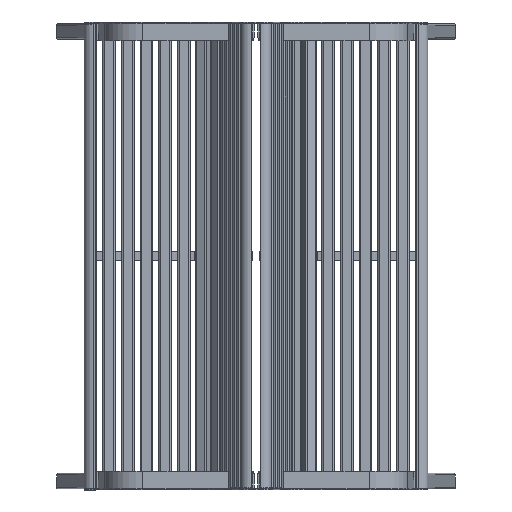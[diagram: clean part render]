
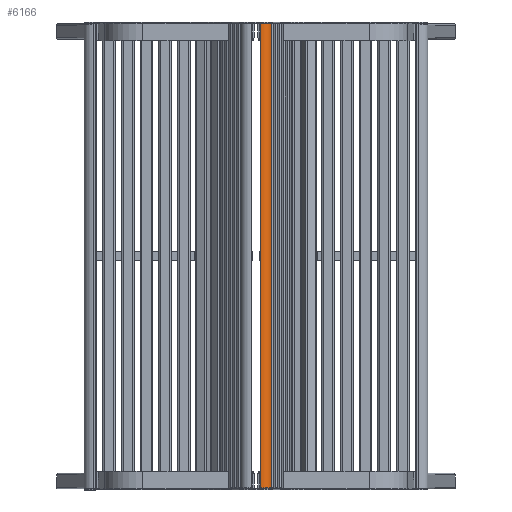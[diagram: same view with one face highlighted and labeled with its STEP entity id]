
A CAD part, top view. The second image highlights one B-rep face of the part: STEP entity #6166.
In plain terms, the highlighted cylindrical face has radius 30 mm (diameter 60 mm), a partial arc.
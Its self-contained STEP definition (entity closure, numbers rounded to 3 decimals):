
#435=CIRCLE('',#6930,30.);
#436=CIRCLE('',#6931,30.);
#546=CYLINDRICAL_SURFACE('',#6929,30.);
#885=FACE_OUTER_BOUND('',#1252,.T.);
#1252=EDGE_LOOP('',(#5527,#5528,#5529,#5530));
#1875=LINE('',#10528,#2506);
#1876=LINE('',#10532,#2507);
#2506=VECTOR('',#8723,1000.);
#2507=VECTOR('',#8726,1000.);
#3032=VERTEX_POINT('',#10521);
#3035=VERTEX_POINT('',#10526);
#3036=VERTEX_POINT('',#10530);
#3037=VERTEX_POINT('',#10531);
#3869=EDGE_CURVE('',#3035,#3032,#1875,.T.);
#3870=EDGE_CURVE('',#3036,#3037,#1876,.T.);
#3871=EDGE_CURVE('',#3032,#3036,#435,.T.);
#3872=EDGE_CURVE('',#3037,#3035,#436,.T.);
#5527=ORIENTED_EDGE('',*,*,#3870,.F.);
#5528=ORIENTED_EDGE('',*,*,#3871,.F.);
#5529=ORIENTED_EDGE('',*,*,#3869,.F.);
#5530=ORIENTED_EDGE('',*,*,#3872,.F.);
#6166=ADVANCED_FACE('',(#885),#546,.T.);
#6929=AXIS2_PLACEMENT_3D('',#10529,#8724,#8725);
#6930=AXIS2_PLACEMENT_3D('',#10533,#8727,#8728);
#6931=AXIS2_PLACEMENT_3D('',#10534,#8729,#8730);
#8723=DIRECTION('',(0.,0.,-1.));
#8724=DIRECTION('center_axis',(0.,0.,1.));
#8725=DIRECTION('ref_axis',(1.,0.,0.));
#8726=DIRECTION('',(0.,0.,1.));
#8727=DIRECTION('center_axis',(0.,0.,-1.));
#8728=DIRECTION('ref_axis',(-1.,0.,0.));
#8729=DIRECTION('center_axis',(0.,0.,1.));
#8730=DIRECTION('ref_axis',(-1.,0.,0.));
#10521=CARTESIAN_POINT('',(0.,0.,0.));
#10526=CARTESIAN_POINT('',(0.,0.,1488.));
#10528=CARTESIAN_POINT('',(0.,0.,1488.));
#10529=CARTESIAN_POINT('Origin',(30.,0.,1488.));
#10530=CARTESIAN_POINT('',(30.,30.,0.));
#10531=CARTESIAN_POINT('',(30.,30.,1488.));
#10532=CARTESIAN_POINT('',(30.,30.,1488.));
#10533=CARTESIAN_POINT('Origin',(30.,0.,0.));
#10534=CARTESIAN_POINT('Origin',(30.,0.,1488.));
